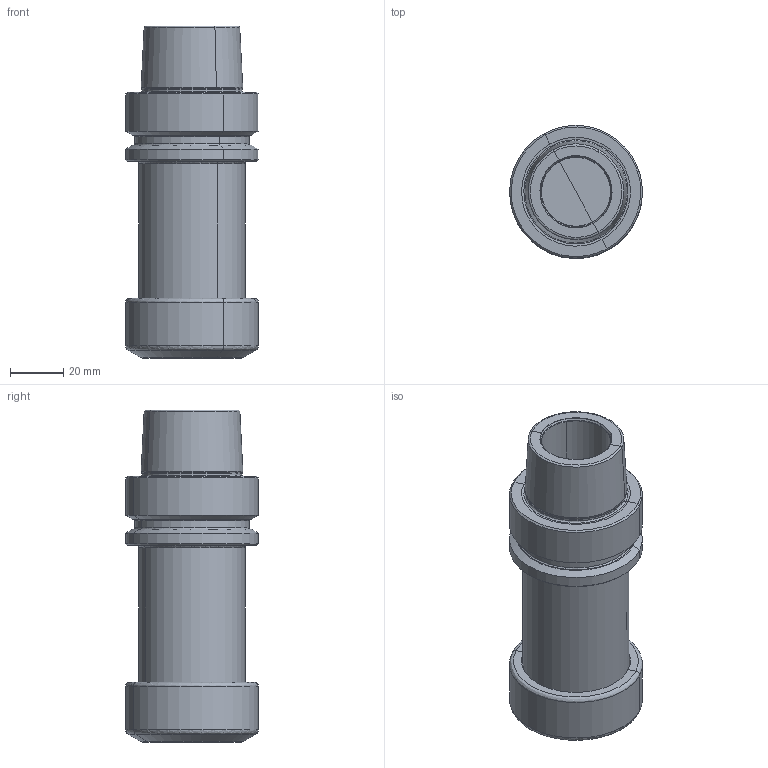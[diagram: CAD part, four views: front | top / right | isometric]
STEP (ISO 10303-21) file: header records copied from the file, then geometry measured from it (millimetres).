
FILE_DESCRIPTION(('CATIA V5 STEP','CAx-IF Rec.Pracs.--- Model Styling and Organization---1.2---2011-12-15'),'2;1');
FILE_NAME('\\nas01\drv1\utils\eitdev\rte\eit\transmagicconvert\db\out\635929557924720899\4500638 L.stp','2016-03-07T11:56:46+00:00',('none'),('none'),'CATIA Version 5 Release 21 SP 5 (IN-10)','CATIA V5 STEP AP214','none');
FILE_SCHEMA(('AUTOMOTIVE_DESIGN { 1 0 10303 214 1 1 1 1 }'));
Length unit declared in the file: millimetre
Products named in the file (1): HSK A 50 ER32X100
Bounding box: 49.99 x 49.99 x 125 mm (x, y, z)
Volume: 129752.5 mm3; surface area: 29990.8 mm2
Topology: 1 solids, 1 shells, 101 faces, 203 edges, 104 vertices
Faces by surface type: revolution 83, plane 18
Entity records: 3182 total; most frequent: CARTESIAN_POINT 1315, ORIENTED_EDGE 406, DIRECTION 227, EDGE_CURVE 203, B_SPLINE_CURVE_WITH_KNOTS 166, AXIS2_PLACEMENT_3D 117, CIRCLE 104, VERTEX_POINT 104
